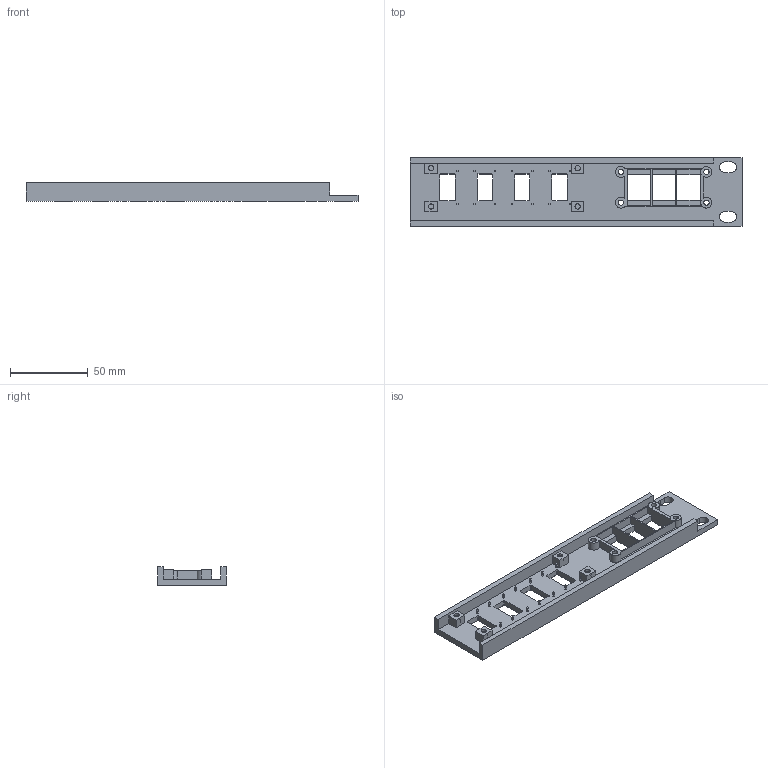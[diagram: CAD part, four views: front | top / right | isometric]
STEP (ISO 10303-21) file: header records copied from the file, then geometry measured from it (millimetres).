
FILE_DESCRIPTION(('Open CASCADE Model'),'2;1');
FILE_NAME('Open CASCADE Shape Model','2026-10-03T22:44:21',('Author'),( 'Open CASCADE'),'Open CASCADE STEP processor 7.8','Open CASCADE 7.8' ,'Unknown');
FILE_SCHEMA(('AUTOMOTIVE_DESIGN { 1 0 10303 214 1 1 1 1 }'));
Length unit declared in the file: millimetre
Products named in the file (1): Open CASCADE STEP translator 7.8 1
Bounding box: 212.93 x 44 x 12 mm (x, y, z)
Volume: 44667.6 mm3; surface area: 29786.1 mm2
Topology: 1 solids, 1 shells, 496 faces, 1341 edges, 894 vertices
Faces by surface type: plane 323, extrusion 117, cylinder 56
Full cylindrical faces by diameter (mm): 3.4 x12
Entity records: 34393 total; most frequent: CARTESIAN_POINT 9035, DIRECTION 3975, VECTOR 2893, LINE 2776, ORIENTED_EDGE 2682, PCURVE 2682, DEFINITIONAL_REPRESENTATION 2682, EDGE_CURVE 1341
